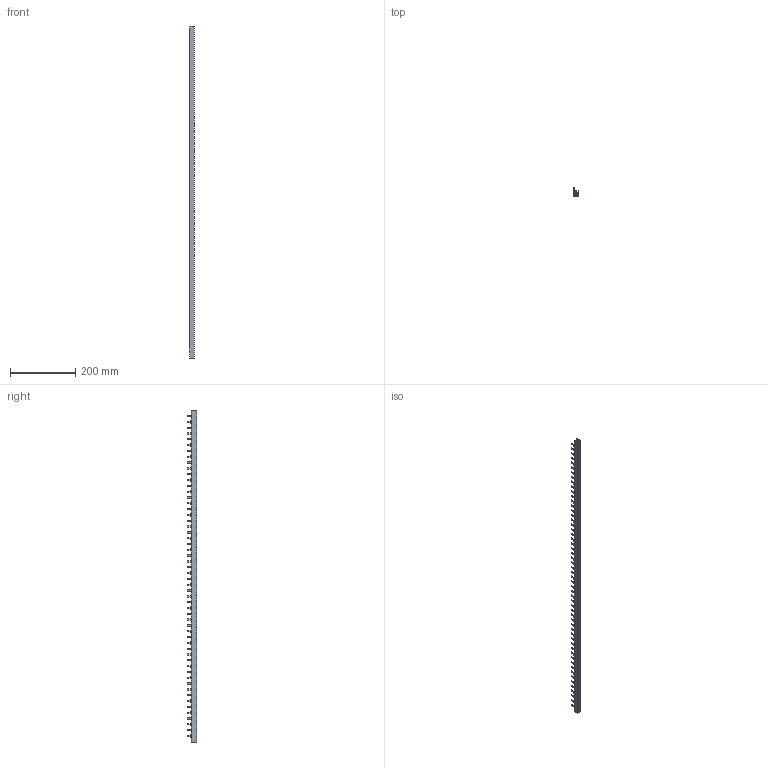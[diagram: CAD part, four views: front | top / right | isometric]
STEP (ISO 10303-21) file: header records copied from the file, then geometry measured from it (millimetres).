
FILE_DESCRIPTION (( 'STEP AP214' ), '1' );
FILE_NAME ('S2L-1000-16.step', '2011-08-12T10:30:02', ( 'Radek Veselý' ), ( 'Siemens and Partners' ), 'SwSTEP 2.0', 'SolidWorks 2006303', '' );
FILE_SCHEMA (( 'AUTOMOTIVE_DESIGN' ));
Length unit declared in the file: millimetre
Products named in the file (1): S2L-1000-16
Bounding box: 14.9 x 28.5 x 1016 mm (x, y, z)
Volume: 134096.4 mm3; surface area: 250830 mm2
Topology: 3 solids, 3 shells, 1155 faces, 3223 edges, 2074 vertices
Faces by surface type: plane 666, cylinder 489
Entity records: 49473 total; most frequent: CARTESIAN_POINT 7125, ORIENTED_EDGE 6446, DIRECTION 6065, EDGE_CURVE 3223, VECTOR 2245, LINE 2245, VERTEX_POINT 2074, AXIS2_PLACEMENT_3D 1910
